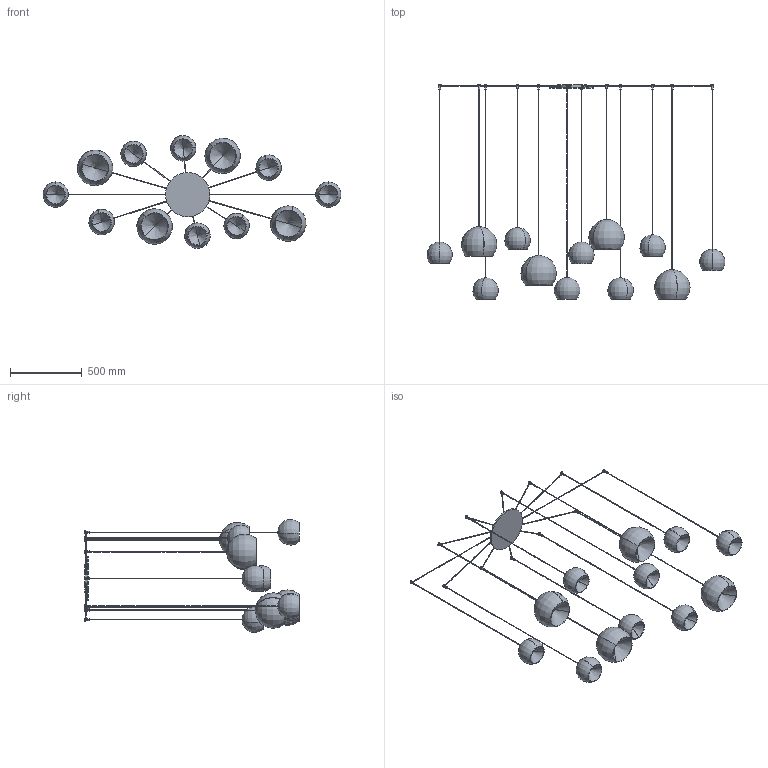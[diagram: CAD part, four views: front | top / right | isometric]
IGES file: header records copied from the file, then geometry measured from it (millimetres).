
Start section: SolidWorks IGES file using analytic representation for surfaces
Global section: file name: Y:\eforma\TECNICO\SOLIDWORKS\E-FORMA\09-LAMPADE\CHERRY MIX\08 modelli 3D web\CRMA1_CHERRY MIX_12 sospensione.IGS; native system: SolidWorks 2022; preprocessor: SolidWorks 2022; author: eforma.tech; date: 250520.151018; units: millimetre
Bounding box: 2083.72 x 1500 x 790.04 mm (x, y, z)
Volume: 4427044.9 mm3; surface area: 3727873.1 mm2
Topology: 61 solids, 61 shells, 449 faces, 950 edges, 600 vertices
Faces by surface type: revolution 302, plane 147
